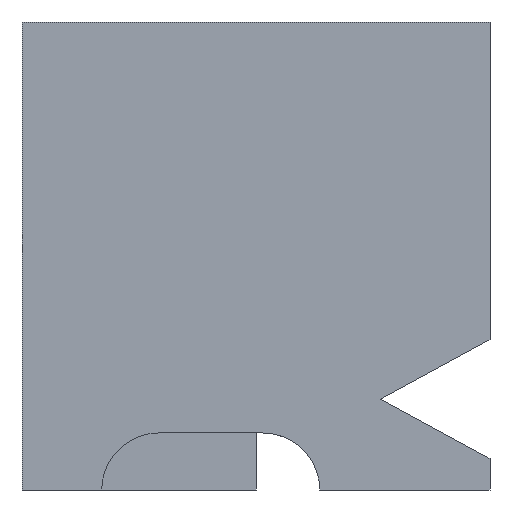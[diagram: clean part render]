
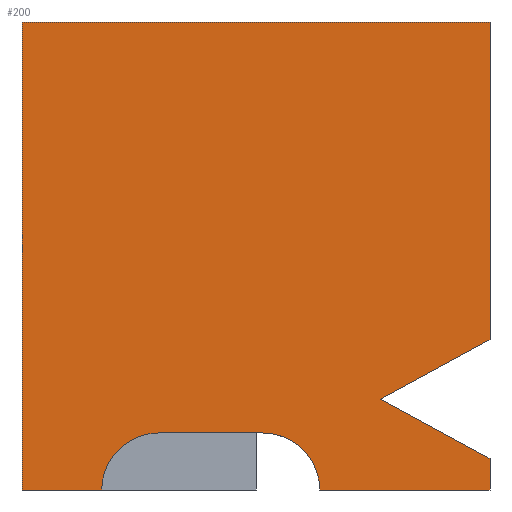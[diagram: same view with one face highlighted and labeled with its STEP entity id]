
A CAD part, front view. The second image highlights one B-rep face of the part: STEP entity #200.
In plain terms, the highlighted planar face has unit normal (0, -1, 0).
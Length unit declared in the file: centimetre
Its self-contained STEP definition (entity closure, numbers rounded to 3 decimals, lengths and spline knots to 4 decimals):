
#17 = DIRECTION ( 'NONE',  ( 0., -1., 0. ) ) ;
#18 = PLANE ( 'NONE',  #310 ) ;
#26 = CARTESIAN_POINT ( 'NONE',  ( 1000., 0., 67.1124 ) ) ;
#30 = CARTESIAN_POINT ( 'NONE',  ( 514.4624, 0., 0. ) ) ;
#31 = VERTEX_POINT ( 'NONE', #326 ) ;
#37 = ORIENTED_EDGE ( 'NONE', *, *, #371, .T. ) ;
#40 = ORIENTED_EDGE ( 'NONE', *, *, #722, .F. ) ;
#48 = CARTESIAN_POINT ( 'NONE',  ( 1000., 0., 1000. ) ) ;
#69 = DIRECTION ( 'NONE',  ( 0., 0., -1. ) ) ;
#79 = CARTESIAN_POINT ( 'NONE',  ( 1000., 0., 0. ) ) ;
#83 = VERTEX_POINT ( 'NONE', #579 ) ;
#104 = ORIENTED_EDGE ( 'NONE', *, *, #727, .F. ) ;
#108 = VECTOR ( 'NONE', #595, 100. ) ;
#109 = EDGE_CURVE ( 'NONE', #461, #83, #294, .T. ) ;
#110 = LINE ( 'NONE', #48, #176 ) ;
#112 = EDGE_CURVE ( 'NONE', #584, #227, #191, .T. ) ;
#113 = DIRECTION ( 'NONE',  ( 0., 0., -1. ) ) ;
#121 = VECTOR ( 'NONE', #700, 100. ) ;
#122 = LINE ( 'NONE', #689, #108 ) ;
#125 = EDGE_CURVE ( 'NONE', #285, #385, #600, .T. ) ;
#154 = VERTEX_POINT ( 'NONE', #79 ) ;
#172 = ORIENTED_EDGE ( 'NONE', *, *, #621, .F. ) ;
#174 = LINE ( 'NONE', #624, #510 ) ;
#176 = VECTOR ( 'NONE', #113, 100. ) ;
#189 = DIRECTION ( 'NONE',  ( 1., 0., 0. ) ) ;
#191 = LINE ( 'NONE', #484, #121 ) ;
#197 = DIRECTION ( 'NONE',  ( 0., 0., -1. ) ) ;
#200 = ADVANCED_FACE ( 'NONE', ( #487 ), #18, .F. ) ;
#201 = CARTESIAN_POINT ( 'NONE',  ( 292.1194, 0., 121.8329 ) ) ;
#227 = VERTEX_POINT ( 'NONE', #358 ) ;
#238 = LINE ( 'NONE', #362, #266 ) ;
#259 = EDGE_LOOP ( 'NONE', ( #464, #626, #40, #392, #37, #172, #263, #488, #104, #275, #705 ) ) ;
#263 = ORIENTED_EDGE ( 'NONE', *, *, #661, .T. ) ;
#266 = VECTOR ( 'NONE', #632, 100. ) ;
#271 = CARTESIAN_POINT ( 'NONE',  ( 0., 0., 1000. ) ) ;
#273 = VERTEX_POINT ( 'NONE', #640 ) ;
#275 = ORIENTED_EDGE ( 'NONE', *, *, #333, .F. ) ;
#282 = VECTOR ( 'NONE', #460, 100. ) ;
#285 = VERTEX_POINT ( 'NONE', #201 ) ;
#294 = LINE ( 'NONE', #364, #496 ) ;
#303 = CARTESIAN_POINT ( 'NONE',  ( 1000., 0., 1000. ) ) ;
#307 = CARTESIAN_POINT ( 'NONE',  ( 0., 0., 1000. ) ) ;
#310 = AXIS2_PLACEMENT_3D ( 'NONE', #307, #708, #375 ) ;
#326 = CARTESIAN_POINT ( 'NONE',  ( 514.4624, 0., 121.8329 ) ) ;
#331 = CARTESIAN_POINT ( 'NONE',  ( 514.4624, 0., 121.8329 ) ) ;
#333 = EDGE_CURVE ( 'NONE', #461, #436, #122, .T. ) ;
#341 = VECTOR ( 'NONE', #189, 100. ) ;
#349 = LINE ( 'NONE', #520, #341 ) ;
#358 = CARTESIAN_POINT ( 'NONE',  ( 1000., 0., 321.0955 ) ) ;
#362 = CARTESIAN_POINT ( 'NONE',  ( 0., 0., 0. ) ) ;
#364 = CARTESIAN_POINT ( 'NONE',  ( 0., 0., 1000. ) ) ;
#371 = EDGE_CURVE ( 'NONE', #273, #154, #238, .T. ) ;
#375 = DIRECTION ( 'NONE',  ( 0., 0., 1. ) ) ;
#378 = AXIS2_PLACEMENT_3D ( 'NONE', #590, #17, #197 ) ;
#385 = VERTEX_POINT ( 'NONE', #542 ) ;
#386 = VERTEX_POINT ( 'NONE', #26 ) ;
#388 = VECTOR ( 'NONE', #399, 100. ) ;
#392 = ORIENTED_EDGE ( 'NONE', *, *, #547, .F. ) ;
#399 = DIRECTION ( 'NONE',  ( -1., 0., 0. ) ) ;
#415 = EDGE_CURVE ( 'NONE', #83, #385, #349, .T. ) ;
#436 = VERTEX_POINT ( 'NONE', #303 ) ;
#460 = DIRECTION ( 'NONE',  ( -0.878, 0., 0.478 ) ) ;
#461 = VERTEX_POINT ( 'NONE', #271 ) ;
#464 = ORIENTED_EDGE ( 'NONE', *, *, #415, .T. ) ;
#481 = AXIS2_PLACEMENT_3D ( 'NONE', #30, #490, #553 ) ;
#484 = CARTESIAN_POINT ( 'NONE',  ( 766.6585, 0., 194.104 ) ) ;
#487 = FACE_OUTER_BOUND ( 'NONE', #259, .T. ) ;
#488 = ORIENTED_EDGE ( 'NONE', *, *, #112, .T. ) ;
#490 = DIRECTION ( 'NONE',  ( 0., -1., 0. ) ) ;
#496 = VECTOR ( 'NONE', #69, 100. ) ;
#507 = DIRECTION ( 'NONE',  ( 0., 0., -1. ) ) ;
#510 = VECTOR ( 'NONE', #507, 100. ) ;
#520 = CARTESIAN_POINT ( 'NONE',  ( 0., 0., 0. ) ) ;
#539 = CIRCLE ( 'NONE', #481, 121.8329 ) ;
#542 = CARTESIAN_POINT ( 'NONE',  ( 170.2865, 0., 0. ) ) ;
#547 = EDGE_CURVE ( 'NONE', #273, #31, #539, .T. ) ;
#553 = DIRECTION ( 'NONE',  ( 0., 0., -1. ) ) ;
#559 = CARTESIAN_POINT ( 'NONE',  ( 1000., 0., 67.1124 ) ) ;
#579 = CARTESIAN_POINT ( 'NONE',  ( 0., 0., 0. ) ) ;
#584 = VERTEX_POINT ( 'NONE', #733 ) ;
#590 = CARTESIAN_POINT ( 'NONE',  ( 292.1194, 0., 0. ) ) ;
#595 = DIRECTION ( 'NONE',  ( 1., 0., 0. ) ) ;
#600 = CIRCLE ( 'NONE', #378, 121.8329 ) ;
#615 = LINE ( 'NONE', #331, #388 ) ;
#621 = EDGE_CURVE ( 'NONE', #386, #154, #174, .T. ) ;
#624 = CARTESIAN_POINT ( 'NONE',  ( 1000., 0., 1000. ) ) ;
#626 = ORIENTED_EDGE ( 'NONE', *, *, #125, .F. ) ;
#632 = DIRECTION ( 'NONE',  ( 1., 0., 0. ) ) ;
#640 = CARTESIAN_POINT ( 'NONE',  ( 636.2952, 0., 0. ) ) ;
#661 = EDGE_CURVE ( 'NONE', #386, #584, #728, .T. ) ;
#689 = CARTESIAN_POINT ( 'NONE',  ( 0., 0., 1000. ) ) ;
#700 = DIRECTION ( 'NONE',  ( 0.878, 0., 0.478 ) ) ;
#705 = ORIENTED_EDGE ( 'NONE', *, *, #109, .T. ) ;
#708 = DIRECTION ( 'NONE',  ( 0., 1., 0. ) ) ;
#722 = EDGE_CURVE ( 'NONE', #31, #285, #615, .T. ) ;
#727 = EDGE_CURVE ( 'NONE', #436, #227, #110, .T. ) ;
#728 = LINE ( 'NONE', #559, #282 ) ;
#733 = CARTESIAN_POINT ( 'NONE',  ( 766.6585, 0., 194.104 ) ) ;
